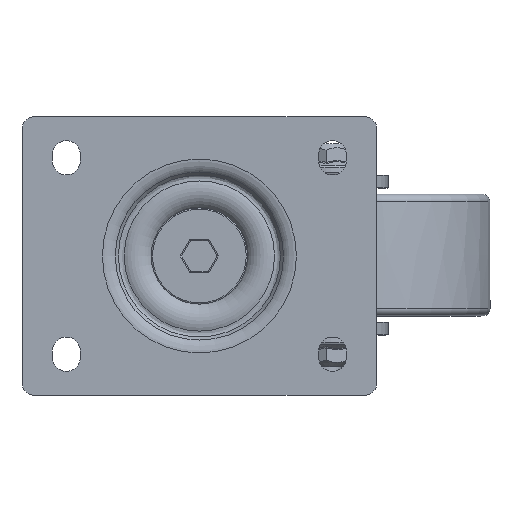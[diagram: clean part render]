
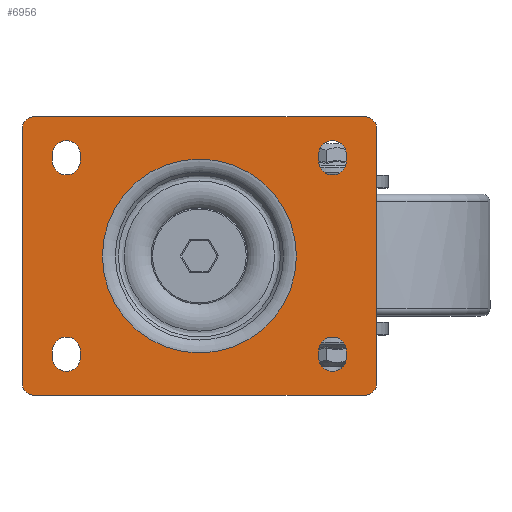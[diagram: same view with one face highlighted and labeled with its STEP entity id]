
A CAD part, top view. The second image highlights one B-rep face of the part: STEP entity #6956.
In plain terms, the highlighted planar face has unit normal (0, 0, 1).
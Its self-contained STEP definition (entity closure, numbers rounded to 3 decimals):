
#5685=CARTESIAN_POINT('',(-169.358,542.205,6.396));
#5686=VERTEX_POINT('',#5685);
#5687=CARTESIAN_POINT('',(-131.085,542.205,6.396));
#5688=DIRECTION('',(0.0,0.0,1.0));
#5689=DIRECTION('',(-1.0,0.0,0.0));
#5690=AXIS2_PLACEMENT_3D('',#5687,#5688,#5689);
#5691=CIRCLE('',#5690,38.273);
#5692=EDGE_CURVE('',#5686,#5686,#5691,.T.);
#6085=CARTESIAN_POINT('',(-201.085,592.205,6.396));
#6086=VERTEX_POINT('',#6085);
#6093=CARTESIAN_POINT('',(-196.085,597.205,6.396));
#6094=VERTEX_POINT('',#6093);
#6095=CARTESIAN_POINT('',(-196.085,592.205,6.396));
#6096=DIRECTION('',(0.0,0.0,1.0));
#6097=DIRECTION('',(1.0,0.0,0.0));
#6098=AXIS2_PLACEMENT_3D('',#6095,#6096,#6097);
#6099=CIRCLE('',#6098,5.0);
#6100=EDGE_CURVE('',#6094,#6086,#6099,.T.);
#6124=CARTESIAN_POINT('',(-201.085,492.205,6.396));
#6125=VERTEX_POINT('',#6124);
#6132=CARTESIAN_POINT('',(-201.085,592.205,6.396));
#6133=DIRECTION('',(0.0,-1.0,0.0));
#6134=VECTOR('',#6133,100.);
#6135=LINE('',#6132,#6134);
#6136=EDGE_CURVE('',#6086,#6125,#6135,.T.);
#6156=CARTESIAN_POINT('',(-196.085,487.205,6.396));
#6157=VERTEX_POINT('',#6156);
#6164=CARTESIAN_POINT('',(-196.085,492.205,6.396));
#6165=DIRECTION('',(0.0,0.0,1.0));
#6166=DIRECTION('',(1.0,0.0,0.0));
#6167=AXIS2_PLACEMENT_3D('',#6164,#6165,#6166);
#6168=CIRCLE('',#6167,5.0);
#6169=EDGE_CURVE('',#6125,#6157,#6168,.T.);
#6188=CARTESIAN_POINT('',(-66.085,487.205,6.396));
#6189=VERTEX_POINT('',#6188);
#6196=CARTESIAN_POINT('',(-196.085,487.205,6.396));
#6197=DIRECTION('',(1.0,0.0,0.0));
#6198=VECTOR('',#6197,130.);
#6199=LINE('',#6196,#6198);
#6200=EDGE_CURVE('',#6157,#6189,#6199,.T.);
#6220=CARTESIAN_POINT('',(-61.085,492.205,6.396));
#6221=VERTEX_POINT('',#6220);
#6228=CARTESIAN_POINT('',(-66.085,492.205,6.396));
#6229=DIRECTION('',(0.0,0.0,1.0));
#6230=DIRECTION('',(1.0,0.0,0.0));
#6231=AXIS2_PLACEMENT_3D('',#6228,#6229,#6230);
#6232=CIRCLE('',#6231,5.0);
#6233=EDGE_CURVE('',#6189,#6221,#6232,.T.);
#6252=CARTESIAN_POINT('',(-61.085,592.205,6.396));
#6253=VERTEX_POINT('',#6252);
#6260=CARTESIAN_POINT('',(-61.085,492.205,6.396));
#6261=DIRECTION('',(0.0,1.0,0.0));
#6262=VECTOR('',#6261,100.);
#6263=LINE('',#6260,#6262);
#6264=EDGE_CURVE('',#6221,#6253,#6263,.T.);
#6284=CARTESIAN_POINT('',(-66.085,597.205,6.396));
#6285=VERTEX_POINT('',#6284);
#6292=CARTESIAN_POINT('',(-66.085,592.205,6.396));
#6293=DIRECTION('',(0.0,0.0,1.0));
#6294=DIRECTION('',(1.0,0.0,0.0));
#6295=AXIS2_PLACEMENT_3D('',#6292,#6293,#6294);
#6296=CIRCLE('',#6295,5.0);
#6297=EDGE_CURVE('',#6253,#6285,#6296,.T.);
#6315=CARTESIAN_POINT('',(-66.085,597.205,6.396));
#6316=DIRECTION('',(-1.0,0.0,0.0));
#6317=VECTOR('',#6316,130.);
#6318=LINE('',#6315,#6317);
#6319=EDGE_CURVE('',#6285,#6094,#6318,.T.);
#6340=CARTESIAN_POINT('',(-178.085,579.705,6.396));
#6341=VERTEX_POINT('',#6340);
#6348=CARTESIAN_POINT('',(-178.085,582.205,6.396));
#6349=VERTEX_POINT('',#6348);
#6350=CARTESIAN_POINT('',(-178.085,582.205,6.396));
#6351=DIRECTION('',(0.0,-1.0,0.0));
#6352=VECTOR('',#6351,2.5);
#6353=LINE('',#6350,#6352);
#6354=EDGE_CURVE('',#6349,#6341,#6353,.T.);
#6379=CARTESIAN_POINT('',(-189.085,579.705,6.396));
#6380=VERTEX_POINT('',#6379);
#6387=CARTESIAN_POINT('',(-183.585,579.705,6.396));
#6388=DIRECTION('',(0.0,0.0,-1.0));
#6389=DIRECTION('',(1.0,0.0,0.0));
#6390=AXIS2_PLACEMENT_3D('',#6387,#6388,#6389);
#6391=CIRCLE('',#6390,5.5);
#6392=EDGE_CURVE('',#6341,#6380,#6391,.T.);
#6411=CARTESIAN_POINT('',(-189.085,582.205,6.396));
#6412=VERTEX_POINT('',#6411);
#6419=CARTESIAN_POINT('',(-189.085,579.705,6.396));
#6420=DIRECTION('',(0.0,1.0,0.0));
#6421=VECTOR('',#6420,2.5);
#6422=LINE('',#6419,#6421);
#6423=EDGE_CURVE('',#6380,#6412,#6422,.T.);
#6442=CARTESIAN_POINT('',(-183.585,582.205,6.396));
#6443=DIRECTION('',(0.0,0.0,-1.0));
#6444=DIRECTION('',(1.0,0.0,0.0));
#6445=AXIS2_PLACEMENT_3D('',#6442,#6443,#6444);
#6446=CIRCLE('',#6445,5.5);
#6447=EDGE_CURVE('',#6412,#6349,#6446,.T.);
#6468=CARTESIAN_POINT('',(-84.085,582.205,6.396));
#6469=VERTEX_POINT('',#6468);
#6476=CARTESIAN_POINT('',(-84.085,579.705,6.396));
#6477=VERTEX_POINT('',#6476);
#6478=CARTESIAN_POINT('',(-84.085,579.705,6.396));
#6479=DIRECTION('',(0.0,1.0,0.0));
#6480=VECTOR('',#6479,2.5);
#6481=LINE('',#6478,#6480);
#6482=EDGE_CURVE('',#6477,#6469,#6481,.T.);
#6507=CARTESIAN_POINT('',(-73.085,582.205,6.396));
#6508=VERTEX_POINT('',#6507);
#6515=CARTESIAN_POINT('',(-78.585,582.205,6.396));
#6516=DIRECTION('',(0.0,0.0,-1.0));
#6517=DIRECTION('',(1.0,0.0,0.0));
#6518=AXIS2_PLACEMENT_3D('',#6515,#6516,#6517);
#6519=CIRCLE('',#6518,5.5);
#6520=EDGE_CURVE('',#6469,#6508,#6519,.T.);
#6539=CARTESIAN_POINT('',(-73.085,579.705,6.396));
#6540=VERTEX_POINT('',#6539);
#6547=CARTESIAN_POINT('',(-73.085,582.205,6.396));
#6548=DIRECTION('',(0.0,-1.0,0.0));
#6549=VECTOR('',#6548,2.5);
#6550=LINE('',#6547,#6549);
#6551=EDGE_CURVE('',#6508,#6540,#6550,.T.);
#6570=CARTESIAN_POINT('',(-78.585,579.705,6.396));
#6571=DIRECTION('',(0.0,0.0,-1.0));
#6572=DIRECTION('',(1.0,0.0,0.0));
#6573=AXIS2_PLACEMENT_3D('',#6570,#6571,#6572);
#6574=CIRCLE('',#6573,5.5);
#6575=EDGE_CURVE('',#6540,#6477,#6574,.T.);
#6596=CARTESIAN_POINT('',(-84.085,504.705,6.396));
#6597=VERTEX_POINT('',#6596);
#6604=CARTESIAN_POINT('',(-84.085,502.205,6.396));
#6605=VERTEX_POINT('',#6604);
#6606=CARTESIAN_POINT('',(-84.085,502.205,6.396));
#6607=DIRECTION('',(0.0,1.0,0.0));
#6608=VECTOR('',#6607,2.5);
#6609=LINE('',#6606,#6608);
#6610=EDGE_CURVE('',#6605,#6597,#6609,.T.);
#6635=CARTESIAN_POINT('',(-73.085,504.705,6.396));
#6636=VERTEX_POINT('',#6635);
#6643=CARTESIAN_POINT('',(-78.585,504.705,6.396));
#6644=DIRECTION('',(0.0,0.0,-1.0));
#6645=DIRECTION('',(1.0,0.0,0.0));
#6646=AXIS2_PLACEMENT_3D('',#6643,#6644,#6645);
#6647=CIRCLE('',#6646,5.5);
#6648=EDGE_CURVE('',#6597,#6636,#6647,.T.);
#6667=CARTESIAN_POINT('',(-73.085,502.205,6.396));
#6668=VERTEX_POINT('',#6667);
#6675=CARTESIAN_POINT('',(-73.085,504.705,6.396));
#6676=DIRECTION('',(0.0,-1.0,0.0));
#6677=VECTOR('',#6676,2.5);
#6678=LINE('',#6675,#6677);
#6679=EDGE_CURVE('',#6636,#6668,#6678,.T.);
#6698=CARTESIAN_POINT('',(-78.585,502.205,6.396));
#6699=DIRECTION('',(0.0,0.0,-1.0));
#6700=DIRECTION('',(1.0,0.0,0.0));
#6701=AXIS2_PLACEMENT_3D('',#6698,#6699,#6700);
#6702=CIRCLE('',#6701,5.5);
#6703=EDGE_CURVE('',#6668,#6605,#6702,.T.);
#6724=CARTESIAN_POINT('',(-178.085,502.205,6.396));
#6725=VERTEX_POINT('',#6724);
#6732=CARTESIAN_POINT('',(-178.085,504.705,6.396));
#6733=VERTEX_POINT('',#6732);
#6734=CARTESIAN_POINT('',(-178.085,504.705,6.396));
#6735=DIRECTION('',(0.0,-1.0,0.0));
#6736=VECTOR('',#6735,2.5);
#6737=LINE('',#6734,#6736);
#6738=EDGE_CURVE('',#6733,#6725,#6737,.T.);
#6763=CARTESIAN_POINT('',(-189.085,502.205,6.396));
#6764=VERTEX_POINT('',#6763);
#6771=CARTESIAN_POINT('',(-183.585,502.205,6.396));
#6772=DIRECTION('',(0.0,0.0,-1.0));
#6773=DIRECTION('',(1.0,0.0,0.0));
#6774=AXIS2_PLACEMENT_3D('',#6771,#6772,#6773);
#6775=CIRCLE('',#6774,5.5);
#6776=EDGE_CURVE('',#6725,#6764,#6775,.T.);
#6795=CARTESIAN_POINT('',(-189.085,504.705,6.396));
#6796=VERTEX_POINT('',#6795);
#6803=CARTESIAN_POINT('',(-189.085,502.205,6.396));
#6804=DIRECTION('',(0.0,1.0,0.0));
#6805=VECTOR('',#6804,2.5);
#6806=LINE('',#6803,#6805);
#6807=EDGE_CURVE('',#6764,#6796,#6806,.T.);
#6826=CARTESIAN_POINT('',(-183.585,504.705,6.396));
#6827=DIRECTION('',(0.0,0.0,-1.0));
#6828=DIRECTION('',(1.0,0.0,0.0));
#6829=AXIS2_PLACEMENT_3D('',#6826,#6827,#6828);
#6830=CIRCLE('',#6829,5.5);
#6831=EDGE_CURVE('',#6796,#6733,#6830,.T.);
#6914=CARTESIAN_POINT('',(-168.333,542.205,6.396));
#6915=DIRECTION('',(0.0,0.0,1.0));
#6916=DIRECTION('',(0.0,-1.0,0.0));
#6917=AXIS2_PLACEMENT_3D('',#6914,#6915,#6916);
#6918=PLANE('',#6917);
#6919=ORIENTED_EDGE('',*,*,#6319,.T.);
#6920=ORIENTED_EDGE('',*,*,#6100,.T.);
#6921=ORIENTED_EDGE('',*,*,#6136,.T.);
#6922=ORIENTED_EDGE('',*,*,#6169,.T.);
#6923=ORIENTED_EDGE('',*,*,#6200,.T.);
#6924=ORIENTED_EDGE('',*,*,#6233,.T.);
#6925=ORIENTED_EDGE('',*,*,#6264,.T.);
#6926=ORIENTED_EDGE('',*,*,#6297,.T.);
#6927=EDGE_LOOP('',(#6919,#6920,#6921,#6922,#6923,#6924,#6925,#6926));
#6928=FACE_OUTER_BOUND('',#6927,.T.);
#6929=ORIENTED_EDGE('',*,*,#6447,.T.);
#6930=ORIENTED_EDGE('',*,*,#6354,.T.);
#6931=ORIENTED_EDGE('',*,*,#6392,.T.);
#6932=ORIENTED_EDGE('',*,*,#6423,.T.);
#6933=EDGE_LOOP('',(#6929,#6930,#6931,#6932));
#6934=FACE_BOUND('',#6933,.T.);
#6935=ORIENTED_EDGE('',*,*,#6575,.T.);
#6936=ORIENTED_EDGE('',*,*,#6482,.T.);
#6937=ORIENTED_EDGE('',*,*,#6520,.T.);
#6938=ORIENTED_EDGE('',*,*,#6551,.T.);
#6939=EDGE_LOOP('',(#6935,#6936,#6937,#6938));
#6940=FACE_BOUND('',#6939,.T.);
#6941=ORIENTED_EDGE('',*,*,#6703,.T.);
#6942=ORIENTED_EDGE('',*,*,#6610,.T.);
#6943=ORIENTED_EDGE('',*,*,#6648,.T.);
#6944=ORIENTED_EDGE('',*,*,#6679,.T.);
#6945=EDGE_LOOP('',(#6941,#6942,#6943,#6944));
#6946=FACE_BOUND('',#6945,.T.);
#6947=ORIENTED_EDGE('',*,*,#6831,.T.);
#6948=ORIENTED_EDGE('',*,*,#6738,.T.);
#6949=ORIENTED_EDGE('',*,*,#6776,.T.);
#6950=ORIENTED_EDGE('',*,*,#6807,.T.);
#6951=EDGE_LOOP('',(#6947,#6948,#6949,#6950));
#6952=FACE_BOUND('',#6951,.T.);
#6953=ORIENTED_EDGE('',*,*,#5692,.F.);
#6954=EDGE_LOOP('',(#6953));
#6955=FACE_BOUND('',#6954,.T.);
#6956=ADVANCED_FACE('',(#6928,#6934,#6940,#6946,#6952,#6955),#6918,.T.);
